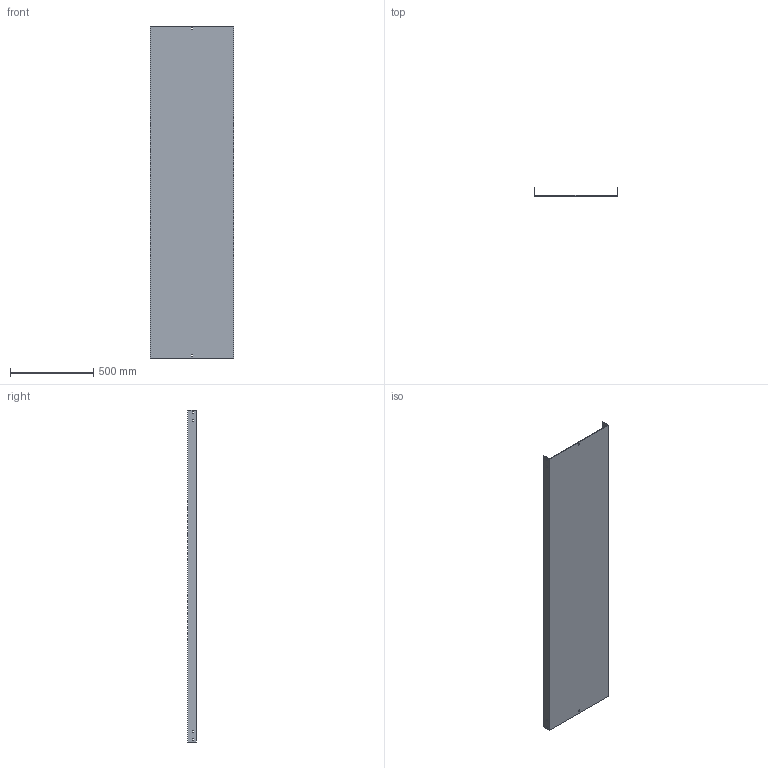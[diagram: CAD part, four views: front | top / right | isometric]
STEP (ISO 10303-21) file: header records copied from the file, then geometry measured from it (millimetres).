
FILE_DESCRIPTION (( 'STEP AP214' ), '1' );
FILE_NAME ('03F2B500.step', '2025-02-21T13:23:49', ( '' ), ( '' ), 'SwSTEP 2.0', 'SolidWorks 2023', '' );
FILE_SCHEMA (( 'AUTOMOTIVE_DESIGN' ));
Length unit declared in the file: millimetre
Products named in the file (1): 03F2B500
Bounding box: 504 x 52 x 2000 mm (x, y, z)
Volume: 4204630.5 mm3; surface area: 2422022 mm2
Topology: 1 solids, 1 shells, 50 faces, 144 edges, 96 vertices
Faces by surface type: plane 50
Entity records: 1671 total; most frequent: CARTESIAN_POINT 291, ORIENTED_EDGE 288, DIRECTION 246, LINE 144, VECTOR 144, EDGE_CURVE 144, VERTEX_POINT 96, EDGE_LOOP 70
